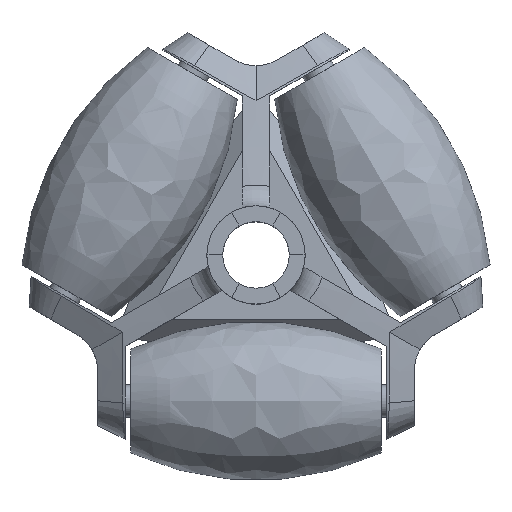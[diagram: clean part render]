
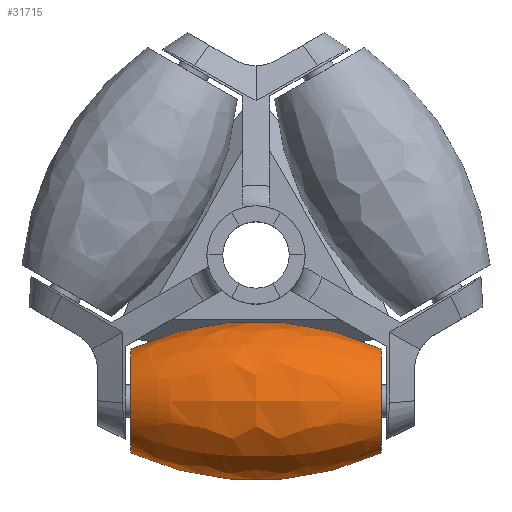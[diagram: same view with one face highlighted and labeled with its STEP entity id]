
A CAD part, top view. The second image highlights one B-rep face of the part: STEP entity #31715.
In plain terms, the highlighted free-form (B-spline) face has degree [3, 3] with [7, 4] control points.
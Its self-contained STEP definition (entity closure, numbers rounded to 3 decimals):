
#31502=CARTESIAN_POINT('',(-40.585,0.,0.));
#31503=DIRECTION('',(0.,0.,1.));
#31504=DIRECTION('',(0.909,-0.417,0.));
#31505=AXIS2_PLACEMENT_3D('',#31502,#31503,#31504);
#31507=CARTESIAN_POINT('',(40.585,0.,0.));
#31508=DIRECTION('',(0.,0.,-1.));
#31509=DIRECTION('',(-0.909,-0.417,0.));
#31510=AXIS2_PLACEMENT_3D('',#31507,#31508,#31509);
#31517=CARTESIAN_POINT('',(0.,-23.,0.));
#31518=DIRECTION('',(0.,-1.,0.));
#31519=DIRECTION('',(1.,0.,0.));
#31520=AXIS2_PLACEMENT_3D('',#31517,#31518,#31519);
#31522=CARTESIAN_POINT('',(0.,23.,0.));
#31523=DIRECTION('',(0.,-1.,0.));
#31524=DIRECTION('',(1.,0.,0.));
#31525=AXIS2_PLACEMENT_3D('',#31522,#31523,#31524);
#31564=CARTESIAN_POINT('',(9.5,-23.,0.));
#31565=CARTESIAN_POINT('',(9.5,23.,0.));
#31566=VERTEX_POINT('',#31564);
#31567=VERTEX_POINT('',#31565);
#31576=CARTESIAN_POINT('',(-9.5,-23.,0.));
#31577=CARTESIAN_POINT('',(-9.5,23.,0.));
#31578=VERTEX_POINT('',#31576);
#31579=VERTEX_POINT('',#31577);
#31679=CARTESIAN_POINT('',(9.079,23.859,
-0.571));
#31680=CARTESIAN_POINT('',(16.434,8.512,
-1.034));
#31681=CARTESIAN_POINT('',(16.434,-8.512,
-1.034));
#31682=CARTESIAN_POINT('',(9.079,-23.859,
-0.571));
#31683=CARTESIAN_POINT('',(9.43,23.859,5.016));
#31684=CARTESIAN_POINT('',(17.07,8.512,9.08));
#31685=CARTESIAN_POINT('',(17.07,-8.512,
9.08));
#31686=CARTESIAN_POINT('',(9.43,-23.859,
5.016));
#31687=CARTESIAN_POINT('',(5.598,23.859,9.097));
#31688=CARTESIAN_POINT('',(10.134,8.512,16.467));
#31689=CARTESIAN_POINT('',(10.134,-8.512,
16.467));
#31690=CARTESIAN_POINT('',(5.598,-23.859,
9.097));
#31691=CARTESIAN_POINT('',(0.,23.859,9.097));
#31692=CARTESIAN_POINT('',(0.,8.512,16.467));
#31693=CARTESIAN_POINT('',(0.,-8.512,16.467));
#31694=CARTESIAN_POINT('',(0.,-23.859,9.097));
#31695=CARTESIAN_POINT('',(-5.598,23.859,
9.097));
#31696=CARTESIAN_POINT('',(-10.134,8.512,
16.467));
#31697=CARTESIAN_POINT('',(-10.134,-8.512,
16.467));
#31698=CARTESIAN_POINT('',(-5.598,-23.859,
9.097));
#31699=CARTESIAN_POINT('',(-9.43,23.859,
5.016));
#31700=CARTESIAN_POINT('',(-17.07,8.512,
9.08));
#31701=CARTESIAN_POINT('',(-17.07,-8.512,
9.08));
#31702=CARTESIAN_POINT('',(-9.43,-23.859,
5.016));
#31703=CARTESIAN_POINT('',(-9.079,23.859,
-0.571));
#31704=CARTESIAN_POINT('',(-16.434,8.512,
-1.034));
#31705=CARTESIAN_POINT('',(-16.434,-8.512,
-1.034));
#31706=CARTESIAN_POINT('',(-9.079,-23.859,
-0.571));
#31707=(BOUNDED_SURFACE()B_SPLINE_SURFACE(3,3,((#31679,#31680,#31681,#31682),(
#31683,#31684,#31685,#31686),(#31687,#31688,#31689,#31690),(#31691,#31692,
#31693,#31694),(#31695,#31696,#31697,#31698),(#31699,#31700,#31701,#31702),(
#31703,#31704,#31705,#31706)),.UNSPECIFIED.,.F.,.F.,.F.)B_SPLINE_SURFACE_WITH_KNOTS((4,3,4),(4,4),(0.,1.,2.),(0.,1.),.UNSPECIFIED.)GEOMETRIC_REPRESENTATION_ITEM()RATIONAL_B_SPLINE_SURFACE(((1.249,1.167,
1.167,1.249),(0.986,0.921,
0.921,0.986),(0.986,0.921,
0.921,0.986),(1.249,1.167,
1.167,1.249),(0.986,0.921,
0.921,0.986),(0.986,0.921,
0.921,0.986),(1.249,1.167,
1.167,1.249)))REPRESENTATION_ITEM('')SURFACE());
#31708=ORIENTED_EDGE('',*,*,#31669,.F.);
#31709=ORIENTED_EDGE('',*,*,#31631,.T.);
#31710=ORIENTED_EDGE('',*,*,#31673,.T.);
#31712=ORIENTED_EDGE('',*,*,#31711,.F.);
#31713=EDGE_LOOP('',(#31708,#31709,#31710,#31712));
#31714=FACE_OUTER_BOUND('',#31713,.F.);
#31506=CIRCLE('',#31505,55.114);
#31511=CIRCLE('',#31510,55.114);
#31521=CIRCLE('',#31520,9.5);
#31526=CIRCLE('',#31525,9.5);
#31631=EDGE_CURVE('',#31566,#31578,#31521,.T.);
#31669=EDGE_CURVE('',#31566,#31567,#31506,.T.);
#31673=EDGE_CURVE('',#31578,#31579,#31511,.T.);
#31711=EDGE_CURVE('',#31567,#31579,#31526,.T.);
#31715=ADVANCED_FACE('',(#31714),#31707,.T.);
